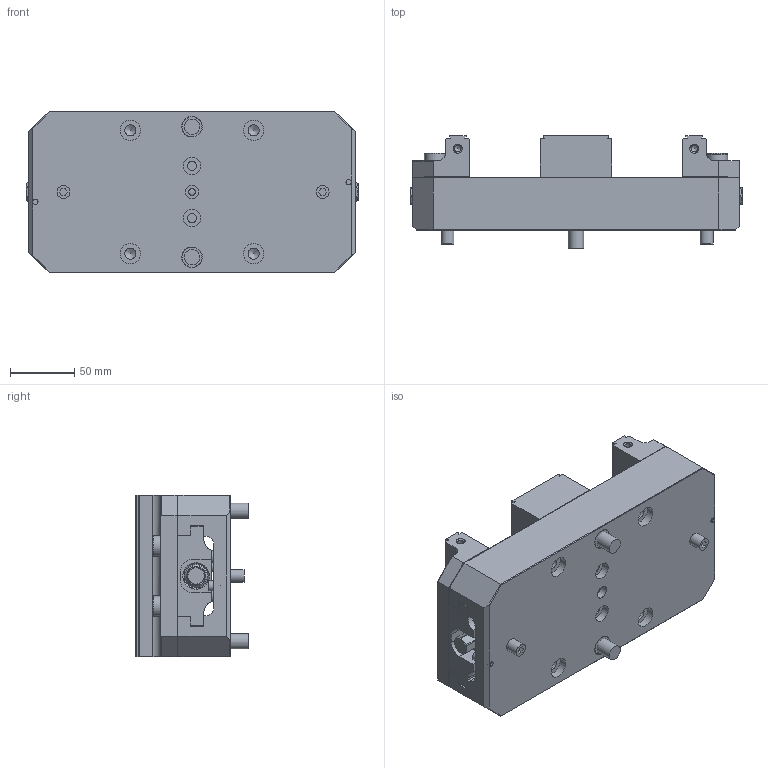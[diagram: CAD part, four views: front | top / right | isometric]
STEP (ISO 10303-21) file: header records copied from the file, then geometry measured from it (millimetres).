
FILE_DESCRIPTION (( 'STEP AP214' ), '1' );
FILE_NAME ('DV510-J1_WEBSITE.STEP', '2025-08-11T10:57:47', ( '' ), ( '' ), 'SwSTEP 2.0', 'SolidWorks 2024', '' );
FILE_SCHEMA (( 'AUTOMOTIVE_DESIGN' ));
Length unit declared in the file: inch
Products named in the file (24): HW.BASE.PLUG.M8-1.25_WEBSITE_90278A411; DV510-3R_WEBSITE; HW.0375.FP_WEBSITE; V562M-2_WEBSITE_FINAL LEFT; DV510-J1_WEBSITE; V5104-1DV_WEBSITE_V510DV-1; 76384_WEBSITE_91290A233; HW.JAW.PLUG_WEBSITE; V562M-2_WEBSITE_FINAL RIGHT -2RDV; HW.76300_WEBSITE_76300; HW.M8X12.DP_WEBSITE_DEFAULT; LP8_WEBSITE_LP8; DV510^DV510-J1_WEBSITE_-JX; HW.0875X0750.DB_WEBSITE_8491A501; HW.09019_WEBSITE_92981A304; HW.76400_WEBSITE_91290A635; V562M-5F_WEBSITE_MILL OP 6 (HARD); V5104M-4_WEBSITE; V5104-5CDV_WEBSITE; HW.LC049E03S_WEBSITE_DEFAULT; LP10_WEBSITE_LP10; 450-12_WEBSITE; HW.M8X12.EPSS_WEBSITE_92775A312; V562M-5_WEBSITE_MILL OP 5 (HARD)
Assembly tree (41 placements, depth 3):
  DV510-J1_WEBSITE
    DV510^DV510-J1_WEBSITE_-JX
      V5104-1DV_WEBSITE_V510DV-1
      V562M-2_WEBSITE_FINAL RIGHT -2RDV
      V562M-2_WEBSITE_FINAL LEFT
      V5104M-4_WEBSITE
      HW.BASE.PLUG.M8-1.25_WEBSITE_90278A411  x2
      HW.0875X0750.DB_WEBSITE_8491A501  x2
      HW.M8X12.DP_WEBSITE_DEFAULT  x4
      HW.LC049E03S_WEBSITE_DEFAULT  x2
      HW.M8X12.EPSS_WEBSITE_92775A312  x2
      HW.0375.FP_WEBSITE  x2
      LP8_WEBSITE_LP8  x2
      LP10_WEBSITE_LP10  x2
      76384_WEBSITE_91290A233  x2
      HW.76400_WEBSITE_91290A635  x2
      450-12_WEBSITE  x2
    DV510-3R_WEBSITE
      V562M-5_WEBSITE_MILL OP 5 (HARD)
      V562M-5F_WEBSITE_MILL OP 6 (HARD)
      V5104-5CDV_WEBSITE
      HW.76300_WEBSITE_76300  x4
      HW.JAW.PLUG_WEBSITE  x2
      HW.09019_WEBSITE_92981A304  x2
Bounding box: 258.32 x 87.7 x 125.73 mm (x, y, z)
Volume: 1418344.6 mm3; surface area: 281448 mm2
Topology: 39 solids, 39 shells, 827 faces, 1835 edges, 1150 vertices
Faces by surface type: plane 459, cylinder 196, cone 146, bspline 11, sphere 8, torus 7
Full cylindrical faces by diameter (mm): 3.454 x1, 4.2 x2, 4.743 x2, 5 x9, 5.5 x2, 5.969 x2, 6 x2, 6.8 x6, 7.137 x2, 7.493 x4, 7.992 x2, 8 x10, 8.016 x4, 8.019 x4, 8.128 x2, 8.5 x8, 8.912 x2, 9.144 x2, 9.195 x2, 9.474 x2, 9.576 x4, 9.957 x4, 10 x8, 10.013 x5, 10.2 x2, 10.719 x4, 12 x4, 13.487 x2, 13.894 x4, 14 x2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
Entity records: 22559 total; most frequent: CARTESIAN_POINT 5567, DIRECTION 2825, ORIENTED_EDGE 2422, EDGE_CURVE 1211, AXIS2_PLACEMENT_3D 1076, EDGE_LOOP 905, VERTEX_POINT 862, FACE_OUTER_BOUND 745
